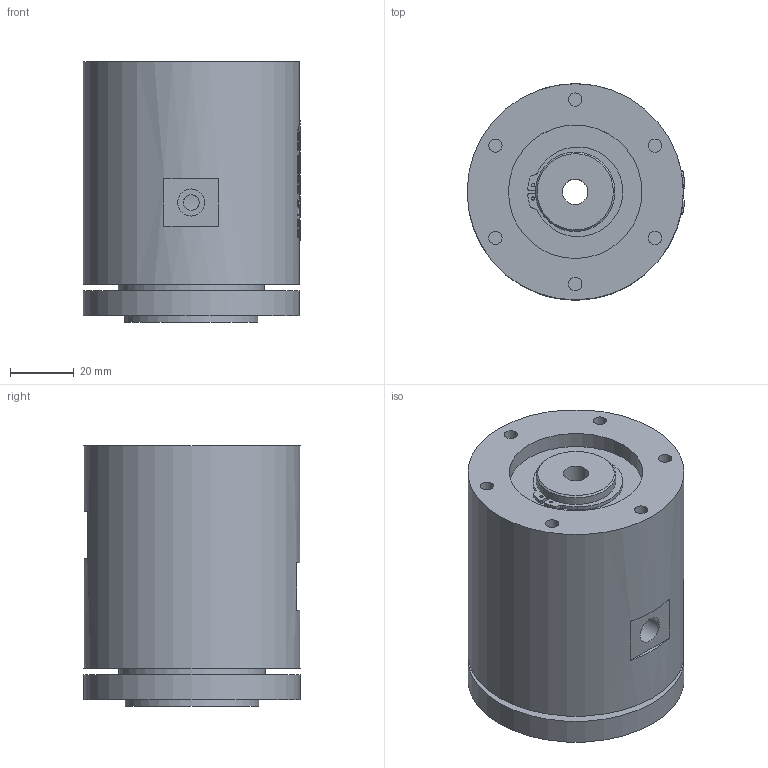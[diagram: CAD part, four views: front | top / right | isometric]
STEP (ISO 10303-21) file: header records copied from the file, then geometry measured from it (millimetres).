
FILE_DESCRIPTION(/* description */ (''),/* implementation_level */ '2;1');
FILE_NAME(/* name */ 'HY0201.stp',/* time_stamp */ '2025-01-20T15:32:17+08:00',/* author */ (''),/* organization */ (''),/* preprocessor_version */ 'ST-DEVELOPER v16.7',/* originating_system */ 'SIEMENS PLM Software NX 12.0',/* authorisation */ '');
FILE_SCHEMA (('AUTOMOTIVE_DESIGN { 1 0 10303 214 3 1 1 1 }'));
Length unit declared in the file: millimetre
Products named in the file (1): HX056BE06534dbxc
Bounding box: 68.48 x 68 x 82 mm (x, y, z)
Volume: 276563.5 mm3; surface area: 34189.4 mm2
Topology: 1 solids, 1 shells, 400 faces, 1014 edges, 685 vertices
Faces by surface type: plane 220, extrusion 88, cylinder 62, bspline 29, cone 1
Full cylindrical faces by diameter (mm): 1 x2, 4.2 x12, 5 x4, 8 x1, 8.5 x4, 23.9 x1, 25 x1, 42 x2, 46 x1, 68 x2
Entity records: 30744 total; most frequent: CARTESIAN_POINT 22310, ORIENTED_EDGE 1894, DIRECTION 1250, EDGE_CURVE 947, VERTEX_POINT 666, B_SPLINE_CURVE_WITH_KNOTS 663, EDGE_LOOP 531, AXIS2_PLACEMENT_3D 506
